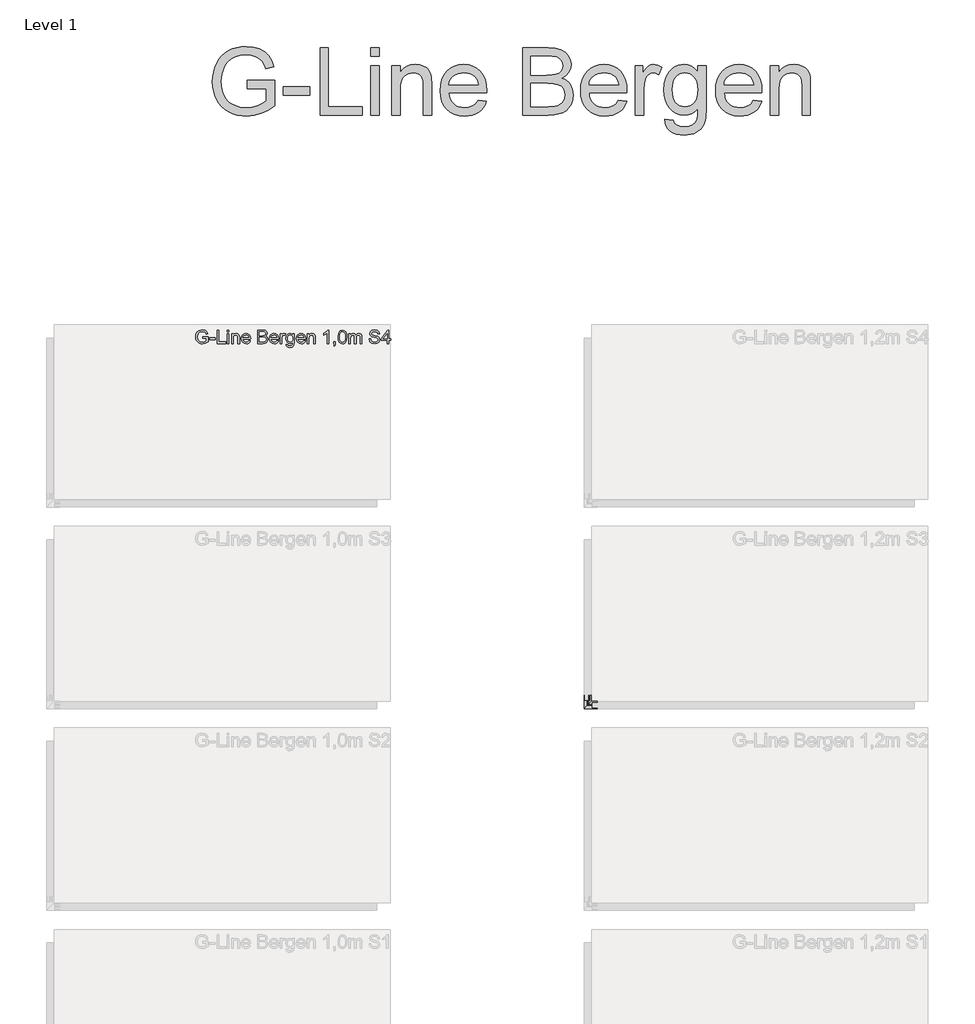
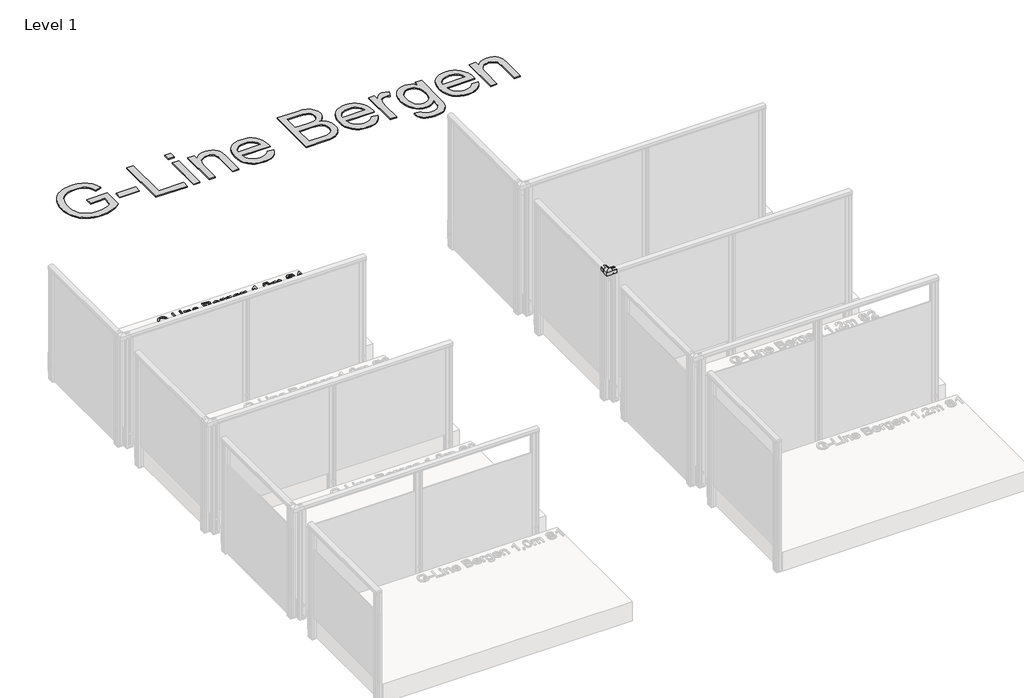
# One storey, part 58 of 66: 3 proxies.
"""IFC4 building model written with IfcOpenShell, lengths in millimetres."""

from ifc_helpers import new_model, si_unit, origin, origin_with_axes, place, context, project, spatial, polyline, outline, extrude, transform, mapped, element, save
from components import generic_models_029e0633

model = new_model("IFC4")

# Units and contexts
model_context = context("Model", 3, world=origin())
ifc_project = project(units=[si_unit("LENGTHUNIT", "METRE", prefix="MILLI")], contexts=[model_context])

# Site, building, storey
site = spatial("IfcSite", under=ifc_project)
building = spatial("IfcBuilding", under=site)
storey = spatial("IfcBuildingStorey", under=building, Name="Level 1", Elevation=0.0)

# Proxies
placement = place(None, origin())
generic_models_shape = generic_models_029e0633(model_context)
element("IfcBuildingElementProxy", 1, Name="Innore top rail 51x43 corner element : Innore top rail 51x43 element", ObjectType="Innore top rail 51x43 corner element : Innore top rail 51x43 element", at=placement, inside=storey, context=model_context, shape_type="MappedRepresentation", body=[
    mapped(generic_models_shape, transform((8466.5256066, 1488.9093698, 1200.0), x_axis=(0.0, -1.0, 0.0), y_axis=(1.0, 0.0, 0.0), z_axis=(0.0, 0.0, 1.0))),
])
element("IfcBuildingElementProxy", 2, Name="100mm Arial", ObjectType="100mm Arial", at=placement, inside=storey, context=model_context, shape_type="SweptSolid", body=[
    extrude(outline(polyline([(5601.1253773, 4218.1223441), (5601.1253773, 4230.6793828), (5641.9357533, 4230.6793828), (5641.9357533, 4193.1308939), (5621.7880827, 4181.2850936), (5600.4877152, 4177.3119681), (5586.4009005, 4178.890795), (5573.6691178, 4183.6272757), (5563.0925104, 4191.3558632), (5555.4712217, 4201.9110108), (5550.8634997, 4214.5722828), (5549.3275924, 4228.6192437), (5550.8573684, 4242.7673721), (5555.4466963, 4255.9283504), (5562.9055037, 4266.967876), (5573.0437184, 4274.7516459), (5585.3922907, 4279.3685649), (5599.4821711, 4280.9075379), (5619.1270696, 4277.3390826), (5632.898119, 4267.4062687), (5640.4887508, 4250.7902652), (5628.9127307, 4247.5283782), (5623.1860343, 4259.1411865), (5613.4003732, 4265.8366388), (5599.2859674, 4268.3504991), (5583.2095242, 4265.6404351), (5572.2711662, 4258.5280499), (5565.8087058, 4248.8527534), (5561.8846312, 4229.1342785), (5566.6057835, 4207.2452997), (5580.3400446, 4194.1487007), (5599.4821711, 4189.8690068), (5616.6622603, 4193.0941057), (5629.3787146, 4199.973499), (5629.3787146, 4218.1223441), (5601.1253773, 4218.1223441)])), origin_with_axes(), (0.0, 0.0, 1.0), 10.0),
    extrude(outline(polyline([(5654.4927921, 4208.704565), (5654.4927921, 4221.2616038), (5693.7335383, 4221.2616038), (5693.7335383, 4208.704565), (5654.4927921, 4208.704565)])), origin_with_axes(), (0.0, 0.0, 1.0), 10.0),
    extrude(outline(polyline([(5709.4298367, 4178.8815979), (5709.4298367, 4279.3379081), (5721.9868755, 4279.3379081), (5721.9868755, 4191.4386367), (5772.2150306, 4191.4386367), (5772.2150306, 4178.8815979), (5709.4298367, 4178.8815979)])), origin_with_axes(), (0.0, 0.0, 1.0), 10.0),
    extrude(outline(polyline([(5784.7720693, 4266.7808693), (5784.7720693, 4279.3379081), (5797.3291081, 4279.3379081), (5797.3291081, 4266.7808693), (5784.7720693, 4266.7808693)])), origin_with_axes(), (0.0, 0.0, 1.0), 10.0),
    extrude(outline(polyline([(5784.7720693, 4178.8815979), (5784.7720693, 4252.6542007), (5797.3291081, 4252.6542007), (5797.3291081, 4178.8815979), (5784.7720693, 4178.8815979)])), origin_with_axes(), (0.0, 0.0, 1.0), 10.0),
    extrude(outline(polyline([(5816.1646663, 4178.8815979), (5816.1646663, 4252.6542007), (5828.721705, 4252.6542007), (5828.721705, 4242.3535048), (5838.3234251, 4251.2562491), (5851.4322869, 4254.2238305), (5863.2903498, 4251.8325976), (5871.3837537, 4245.5540782), (5875.1484128, 4236.3202401), (5875.8106004, 4224.1801343), (5875.8106004, 4178.8815979), (5863.2535616, 4178.8815979), (5863.2535616, 4222.4878771), (5861.8065591, 4233.5979133), (5856.6929994, 4239.4717625), (5848.072298, 4241.6667918), (5834.4484014, 4236.737173), (5830.1533791, 4229.594131), (5828.721705, 4218.0242422), (5828.721705, 4178.8815979), (5816.1646663, 4178.8815979)])), origin_with_axes(), (0.0, 0.0, 1.0), 10.0),
    extrude(outline(polyline([(5944.7271608, 4200.8564158), (5957.0389449, 4199.2867859), (5952.6029012, 4190.0100283), (5945.5242385, 4183.0754527), (5935.9623723, 4178.7528392), (5924.0767182, 4177.3119681), (5909.3430443, 4179.7982372), (5898.0061474, 4187.2570447), (5890.7772662, 4199.2040125), (5888.3676392, 4215.1547626), (5890.8017917, 4231.6420074), (5898.1042493, 4243.9721856), (5909.287862, 4251.6609193), (5923.3654796, 4254.2238305), (5937.0047046, 4251.6670507), (5947.9032087, 4243.9967111), (5955.0493165, 4231.6910583), (5957.4313524, 4215.228339), (5957.357776, 4211.8438247), (5900.9246779, 4211.8438247), (5903.0982474, 4202.4444397), (5908.1474278, 4195.5343896), (5915.434557, 4191.2853525), (5924.3219728, 4189.8690068), (5936.6337569, 4192.4932317), (5944.7271608, 4200.8564158)]), holes=[polyline([(5900.9246779, 4224.4008635), (5944.8743136, 4224.4008635), (5939.846593, 4235.7806798), (5932.5257413, 4240.1952638), (5923.3164287, 4241.6667918), (5907.8531222, 4236.970165), (5902.9878828, 4231.4795262), (5900.9246779, 4224.4008635)])]), origin_with_axes(), (0.0, 0.0, 1.0), 10.0),
    extrude(outline(polyline([(6010.7987672, 4178.8815979), (6010.7987672, 4279.3379081), (6049.1320711, 4279.3379081), (6067.9063156, 4276.3825894), (6078.9918263, 4267.2959041), (6083.0017401, 4254.4445597), (6079.6294885, 4242.7091241), (6069.4391572, 4233.8186425), (6081.812255, 4224.4499144), (6086.1409998, 4208.8271923), (6083.1856811, 4195.3259231), (6075.8648294, 4185.7119403), (6064.9387341, 4180.6106433), (6048.8377655, 4178.8815979), (6010.7987672, 4178.8815979)]), holes=[polyline([(6023.3558059, 4238.5275321), (6046.287117, 4238.5275321), (6059.6780216, 4239.6066526), (6067.7346373, 4244.2542285), (6070.4447013, 4252.4334715), (6067.9185783, 4260.6249772), (6060.6835657, 4265.4687569), (6044.5458089, 4266.7808693), (6023.3558059, 4266.7808693), (6023.3558059, 4238.5275321)]), polyline([(6023.3558059, 4191.4386367), (6049.1075456, 4191.4386367), (6058.4272228, 4191.929146), (6066.3121602, 4194.6637355), (6071.5360846, 4200.2432791), (6073.583961, 4208.704565), (6071.1804653, 4218.4657006), (6063.3936297, 4224.2904989), (6047.8812723, 4225.9704933), (6023.3558059, 4225.9704933), (6023.3558059, 4191.4386367)])]), origin_with_axes(), (0.0, 0.0, 1.0), 10.0),
    extrude(outline(polyline([(6153.4879304, 4200.8564158), (6165.7997145, 4199.2867859), (6161.3636707, 4190.0100283), (6154.285008, 4183.0754527), (6144.7231418, 4178.7528392), (6132.8374877, 4177.3119681), (6118.1038138, 4179.7982372), (6106.766917, 4187.2570447), (6099.5380358, 4199.2040125), (6097.1284087, 4215.1547626), (6099.5625612, 4231.6420074), (6106.8650188, 4243.9721856), (6118.0486315, 4251.6609193), (6132.1262492, 4254.2238305), (6145.7654741, 4251.6670507), (6156.6639783, 4243.9967111), (6163.810086, 4231.6910583), (6166.1921219, 4215.228339), (6166.1185455, 4211.8438247), (6109.6854475, 4211.8438247), (6111.8590169, 4202.4444397), (6116.9081973, 4195.5343896), (6124.1953265, 4191.2853525), (6133.0827424, 4189.8690068), (6145.3945265, 4192.4932317), (6153.4879304, 4200.8564158)]), holes=[polyline([(6109.6854475, 4224.4008635), (6153.6350832, 4224.4008635), (6148.6073626, 4235.7806798), (6141.2865109, 4240.1952638), (6132.0771982, 4241.6667918), (6116.6138917, 4236.970165), (6111.7486523, 4231.4795262), (6109.6854475, 4224.4008635)])]), origin_with_axes(), (0.0, 0.0, 1.0), 10.0),
    extrude(outline(polyline([(6178.7491607, 4178.8815979), (6178.7491607, 4252.6542007), (6189.7365696, 4252.6542007), (6189.7365696, 4241.7403682), (6197.5356679, 4251.7958094), (6205.3838171, 4254.2238305), (6217.9899068, 4250.3488068), (6213.7960521, 4239.0916178), (6204.9668842, 4241.6667918), (6197.8667617, 4239.1897197), (6193.3418132, 4232.3225891), (6191.3061995, 4217.6563602), (6191.3061995, 4178.8815979), (6178.7491607, 4178.8815979)])), origin_with_axes(), (0.0, 0.0, 1.0), 10.0),
    extrude(outline(polyline([(6222.6987964, 4172.6030785), (6235.2558352, 4171.0334487), (6239.3270626, 4164.4115728), (6251.5162193, 4161.6156696), (6264.3675637, 4164.7794548), (6270.4989303, 4173.6576736), (6271.3573216, 4188.299377), (6262.515891, 4181.2360427), (6251.7369485, 4178.8815979), (6238.790568, 4181.6223188), (6229.1367313, 4189.8444814), (6223.1310577, 4201.8987481), (6221.1291665, 4216.1357813), (6224.7221474, 4235.5967388), (6235.1209451, 4249.3677882), (6251.1238119, 4254.2238305), (6262.3258186, 4251.4769783), (6271.3573216, 4243.2364216), (6271.3573216, 4252.6542007), (6283.9143604, 4252.6542007), (6283.9143604, 4188.9615646), (6280.4807951, 4164.5709883), (6269.6037508, 4153.2279601), (6251.2709647, 4149.0586308), (6239.5876456, 4150.5270931), (6230.3875301, 4154.93248), (6224.4860897, 4162.2870543), (6222.6987964, 4172.6030785)]), holes=[polyline([(6233.6862053, 4216.9941726), (6235.0259089, 4205.4764005), (6239.0450197, 4197.5577405), (6245.0874815, 4192.9684127), (6252.497238, 4191.4386367), (6259.8518122, 4192.9592156), (6265.9249308, 4197.5209523), (6269.9992239, 4205.3384447), (6271.3573216, 4216.6262906), (6269.95937, 4227.512532), (6265.7655153, 4235.3514842), (6259.6034919, 4240.0879649), (6252.3010343, 4241.6667918), (6245.130401, 4240.1124903), (6239.1185961, 4235.449586), (6235.044303, 4227.7271298), (6233.6862053, 4216.9941726)])]), origin_with_axes(), (0.0, 0.0, 1.0), 10.0),
    extrude(outline(polyline([(6354.4005507, 4200.8564158), (6366.7123348, 4199.2867859), (6362.276291, 4190.0100283), (6355.1976283, 4183.0754527), (6345.6357621, 4178.7528392), (6333.750108, 4177.3119681), (6319.0164341, 4179.7982372), (6307.6795373, 4187.2570447), (6300.4506561, 4199.2040125), (6298.041029, 4215.1547626), (6300.4751815, 4231.6420074), (6307.7776391, 4243.9721856), (6318.9612518, 4251.6609193), (6333.0388695, 4254.2238305), (6346.6780944, 4251.6670507), (6357.5765986, 4243.9967111), (6364.7227063, 4231.6910583), (6367.1047422, 4215.228339), (6367.0311658, 4211.8438247), (6310.5980678, 4211.8438247), (6312.7716372, 4202.4444397), (6317.8208176, 4195.5343896), (6325.1079468, 4191.2853525), (6333.9953627, 4189.8690068), (6346.3071468, 4192.4932317), (6354.4005507, 4200.8564158)]), holes=[polyline([(6310.5980678, 4224.4008635), (6354.5477035, 4224.4008635), (6349.5199829, 4235.7806798), (6342.1991312, 4240.1952638), (6332.9898185, 4241.6667918), (6317.526512, 4236.970165), (6312.6612726, 4231.4795262), (6310.5980678, 4224.4008635)])]), origin_with_axes(), (0.0, 0.0, 1.0), 10.0),
    extrude(outline(polyline([(6379.661781, 4178.8815979), (6379.661781, 4252.6542007), (6392.2188198, 4252.6542007), (6392.2188198, 4242.3535048), (6401.8205398, 4251.2562491), (6414.9294016, 4254.2238305), (6426.7874646, 4251.8325976), (6434.8808685, 4245.5540782), (6438.6455276, 4236.3202401), (6439.3077151, 4224.1801343), (6439.3077151, 4178.8815979), (6426.7506764, 4178.8815979), (6426.7506764, 4222.4878771), (6425.3036739, 4233.5979133), (6420.1901141, 4239.4717625), (6411.5694127, 4241.6667918), (6397.9455162, 4236.737173), (6393.6504939, 4229.594131), (6392.2188198, 4218.0242422), (6392.2188198, 4178.8815979), (6379.661781, 4178.8815979)])), origin_with_axes(), (0.0, 0.0, 1.0), 10.0),
    extrude(outline(polyline([(6539.7640253, 4178.8815979), (6527.2069865, 4178.8815979), (6527.2069865, 4257.1668865), (6515.3121354, 4248.6933379), (6502.092909, 4242.3535048), (6502.092909, 4254.2238305), (6520.4992715, 4265.9715289), (6531.6706214, 4279.3379081), (6539.7640253, 4279.3379081), (6539.7640253, 4178.8815979)])), origin_with_axes(), (0.0, 0.0, 1.0), 10.0),
    extrude(outline(polyline([(6575.8655118, 4178.8815979), (6575.8655118, 4191.4386367), (6588.4225505, 4191.4386367), (6588.4225505, 4178.8815979), (6586.1662076, 4166.0425163), (6579.0047714, 4158.4764099), (6575.8655118, 4163.1852995), (6580.4762994, 4168.6054275), (6582.1195057, 4178.8815979), (6575.8655118, 4178.8815979)])), origin_with_axes(), (0.0, 0.0, 1.0), 10.0),
    extrude(outline(polyline([(6608.8277385, 4228.3004126), (6612.5188212, 4257.2036747), (6623.4817047, 4273.8687291), (6641.7899653, 4279.3379081), (6656.4561942, 4276.1005465), (6666.5852118, 4266.7686066), (6672.4713237, 4251.906174), (6674.7521921, 4228.3004126), (6671.0978976, 4199.5197778), (6660.1718023, 4182.8179353), (6651.9404427, 4178.6884599), (6641.7899653, 4177.3119681), (6628.7424172, 4179.703201), (6618.8341288, 4186.8768999), (6611.3293361, 4203.8669168), (6608.8277385, 4228.3004126)]), holes=[polyline([(6621.3847773, 4228.3249381), (6622.8563053, 4208.5727406), (6627.2708892, 4197.1408076), (6633.8437142, 4191.686957), (6641.7899653, 4189.8690068), (6649.7362164, 4191.6930884), (6656.3090414, 4197.1653331), (6660.7236253, 4208.6033974), (6662.1951533, 4228.3249381), (6660.7726762, 4247.6326115), (6656.5052451, 4259.1534493), (6649.9446829, 4264.8740143), (6641.6428125, 4266.7808693), (6633.7824005, 4265.1008749), (6627.4670929, 4260.0608915), (6622.9053562, 4247.8226838), (6621.3847773, 4228.3249381)])]), origin_with_axes(), (0.0, 0.0, 1.0), 10.0),
    extrude(outline(polyline([(6688.8788607, 4178.8815979), (6688.8788607, 4252.6542007), (6701.4358994, 4252.6542007), (6701.4358994, 4240.5140948), (6710.0688636, 4250.4591714), (6722.3561222, 4254.2238305), (6734.9376865, 4250.385595), (6741.853868, 4239.6311781), (6751.6517918, 4250.5756674), (6764.0248896, 4254.2238305), (6773.4641284, 4252.7063173), (6780.4446893, 4248.1537776), (6784.7581057, 4240.4435841), (6786.1959111, 4229.4531095), (6786.1959111, 4178.8815979), (6773.6388724, 4178.8815979), (6773.6388724, 4224.0575069), (6772.4739127, 4234.5421438), (6768.2555325, 4239.7047545), (6761.0818336, 4241.6667918), (6748.7332613, 4236.6390712), (6745.0452443, 4230.096903), (6743.8159053, 4220.5258398), (6743.8159053, 4178.8815979), (6731.2588665, 4178.8815979), (6731.2588665, 4225.4554585), (6728.3525988, 4237.6200898), (6718.8244551, 4241.6667918), (6709.5293033, 4238.9689905), (6703.3488858, 4231.0717903), (6701.4358994, 4216.0867304), (6701.4358994, 4178.8815979), (6688.8788607, 4178.8815979)])), origin_with_axes(), (0.0, 0.0, 1.0), 10.0),
    extrude(outline(polyline([(6841.1329557, 4213.4134545), (6853.6899945, 4213.4134545), (6857.7366965, 4200.844153), (6867.6204594, 4192.8979019), (6882.6790957, 4189.8690068), (6895.8002202, 4192.1621379), (6904.2737689, 4198.4651828), (6907.0574093, 4206.8896805), (6904.9727446, 4214.725567), (6896.4378824, 4220.4277379), (6878.1541472, 4225.2224666), (6858.4724605, 4231.4151468), (6847.7916199, 4240.7593495), (6844.2722154, 4253.2428119), (6848.6254857, 4267.4553196), (6861.34194, 4277.4862354), (6879.956769, 4280.9075379), (6899.8223967, 4277.3268198), (6913.0661485, 4266.8053948), (6918.0448182, 4251.0845708), (6905.4877794, 4251.0845708), (6903.1823856, 4258.5771008), (6898.3753942, 4263.9849661), (6880.4472783, 4268.3504991), (6862.4701115, 4264.0340171), (6856.8292542, 4253.6106939), (6860.8269052, 4244.9041533), (6881.3301951, 4237.8898699), (6903.5502676, 4231.5868251), (6915.7026362, 4221.4087566), (6919.6144481, 4207.2085115), (6915.114025, 4192.1866634), (6902.1645787, 4181.22378), (6883.1696051, 4177.3119681), (6860.7410661, 4181.5303483), (6846.5530838, 4194.2345399), (6841.1329557, 4213.4134545)])), origin_with_axes(), (0.0, 0.0, 1.0), 10.0),
    extrude(outline(polyline([(6974.5514927, 4178.8815979), (6974.5514927, 4202.4260456), (6929.0322271, 4202.4260456), (6929.0322271, 4214.9830844), (6977.6907524, 4277.7682782), (6987.1085314, 4277.7682782), (6987.1085314, 4214.9830844), (6999.6655702, 4214.9830844), (6999.6655702, 4202.4260456), (6987.1085314, 4202.4260456), (6987.1085314, 4178.8815979), (6974.5514927, 4178.8815979)]), holes=[polyline([(6974.5514927, 4214.9830844), (6974.5514927, 4253.7823721), (6944.4832709, 4214.9830844), (6974.5514927, 4214.9830844)])]), origin_with_axes(), (0.0, 0.0, 1.0), 10.0),
])
element("IfcBuildingElementProxy", 3, Name="500mm Arial 2", ObjectType="500mm Arial 2", at=placement, inside=storey, context=model_context, shape_type="SweptSolid", body=[
    extrude(outline(polyline([(5933.4305946, 6075.0853287), (5933.4305946, 6137.8705225), (6137.4824745, 6137.8705225), (6137.4824745, 5950.1280777), (6087.8950473, 5915.6391406), (6036.7441215, 5890.8990764), (5984.1523246, 5875.9998556), (5930.2422839, 5871.0334487), (5894.1783521, 5873.0069823), (5859.8082103, 5878.9275832), (5827.1318585, 5888.7952513), (5796.1492967, 5902.6099866), (5767.8607041, 5920.1648556), (5743.2662599, 5941.2529245), (5722.365964, 5965.8741935), (5705.1598166, 5994.0286624), (5691.7206274, 6024.8157869), (5682.1212066, 6057.3350224), (5676.3615541, 6091.586369), (5674.44167, 6127.5698267), (5676.3538899, 6163.5571164), (5682.0905498, 6198.3104686), (5691.6516495, 6231.8298834), (5705.0371892, 6264.1153605), (5722.0095784, 6293.7490217), (5742.3312265, 6319.3129882), (5766.0021336, 6340.8072602), (5793.0222997, 6358.2318376), (5822.8054129, 6371.6978515), (5854.7651613, 6381.3164328), (5888.9015447, 6387.0875816), (5925.2145633, 6389.0112979), (5976.9326405, 6384.5507287), (6023.439056, 6371.1690211), (6062.6031601, 6349.8318654), (6092.2943028, 6321.5049518), (6114.2599236, 6284.8240512), (6130.247462, 6238.4249345), (6072.3673614, 6222.1154994), (6059.4455063, 6255.2095506), (6043.7338794, 6280.179541), (6022.9485467, 6299.0028364), (5994.8055741, 6313.6568026), (5961.2516704, 6323.0837787), (5924.2335447, 6326.2261041), (5880.9001113, 6322.838524), (5843.8513287, 6312.6757839), (5813.2251526, 6297.0101423), (5789.1595388, 6277.1138577), (5770.6887969, 6254.0139341), (5756.8472369, 6228.7373753), (5742.1319571, 6181.3419116), (5737.2268638, 6130.1450006), (5738.7022239, 6098.7945568), (5743.1283041, 6070.1035933), (5750.5051046, 6044.0721101), (5760.8326252, 6020.7001071), (5773.9767423, 6000.0757227), (5789.8033323, 5982.2870954), (5808.3123952, 5967.3342251), (5829.5039309, 5955.2171119), (5875.9643612, 5939.1682599), (5925.2145633, 5933.8186425), (5968.7012808, 5937.8500161), (6011.1150092, 5949.9441367), (6047.949194, 5966.6061254), (6074.6972807, 5984.3411032), (6074.6972807, 6075.0853287), (5933.4305946, 6075.0853287)])), origin_with_axes(), (0.0, 0.0, 1.0), 10.0),
    extrude(outline(polyline([(6200.2676684, 6027.9964333), (6200.2676684, 6090.7816271), (6396.4713992, 6090.7816271), (6396.4713992, 6027.9964333), (6200.2676684, 6027.9964333)])), origin_with_axes(), (0.0, 0.0, 1.0), 10.0),
    extrude(outline(polyline([(6474.9528915, 5878.8815979), (6474.9528915, 6381.1631487), (6537.7380853, 6381.1631487), (6537.7380853, 5941.6667918), (6788.8788607, 5941.6667918), (6788.8788607, 5878.8815979), (6474.9528915, 5878.8815979)])), origin_with_axes(), (0.0, 0.0, 1.0), 10.0),
    extrude(outline(polyline([(6851.6640545, 5878.8815979), (6851.6640545, 6247.7446117), (6914.4492484, 6247.7446117), (6914.4492484, 5878.8815979), (6851.6640545, 5878.8815979)])), origin_with_axes(), (0.0, 0.0, 1.0), 10.0),
    extrude(outline(polyline([(6851.6640545, 6318.3779548), (6851.6640545, 6381.1631487), (6914.4492484, 6381.1631487), (6914.4492484, 6318.3779548), (6851.6640545, 6318.3779548)])), origin_with_axes(), (0.0, 0.0, 1.0), 10.0),
    extrude(outline(polyline([(7008.6270391, 5878.8815979), (7008.6270391, 6247.7446117), (7071.412233, 6247.7446117), (7071.412233, 6196.2411324), (7093.2245696, 6222.2074699), (7119.4208333, 6240.7548538), (7150.0010242, 6251.8832842), (7184.9651421, 6255.592761), (7215.913215, 6252.6037198), (7244.255457, 6243.6365961), (7267.8918752, 6229.8103645), (7284.7224765, 6212.2439992), (7296.1421468, 6190.9834856), (7303.5457719, 6166.0748088), (7306.8567099, 6105.3742796), (7306.8567099, 5878.8815979), (7244.071516, 5878.8815979), (7244.071516, 6096.9129937), (7242.2627629, 6129.3785798), (7236.8365035, 6152.463175), (7226.8270475, 6169.0025364), (7211.2687048, 6181.8324209), (7191.326435, 6190.0637806), (7168.1651977, 6192.8075671), (7149.1004797, 6191.2670613), (7131.3923266, 6186.6455437), (7115.0407383, 6178.9430144), (7100.0457149, 6168.1594735), (7087.5185666, 6153.0686474), (7078.5706035, 6132.4442631), (7073.2018256, 6106.2863204), (7071.412233, 6074.5948194), (7071.412233, 5878.8815979), (7008.6270391, 5878.8815979)])), origin_with_axes(), (0.0, 0.0, 1.0), 10.0),
    extrude(outline(polyline([(7651.439512, 5988.7556871), (7712.9984326, 5980.9075379), (7703.5599601, 5956.25178), (7690.8182139, 5934.5237497), (7674.773194, 5915.7234469), (7655.4249003, 5899.8508716), (7632.9726023, 5887.2432491), (7607.6155694, 5878.2378044), (7579.3538015, 5872.8345376), (7548.1872987, 5871.0334487), (7509.2301283, 5874.1412851), (7474.5189292, 5883.4647944), (7444.0537015, 5899.0039766), (7417.8344451, 5920.7588317), (7396.7502082, 5948.1238872), (7381.6900391, 5980.4936707), (7372.6539376, 6017.8681821), (7369.6419037, 6060.2474215), (7372.6845944, 6104.0637), (7381.8126664, 6142.6836453), (7397.0261197, 6176.1072574), (7418.3249544, 6204.3345363), (7444.4752329, 6226.7600096), (7474.2430177, 6242.7782048), (7507.6283088, 6252.3891219), (7544.6311061, 6255.592761), (7580.4421191, 6252.3967861), (7612.827231, 6242.8088616), (7641.7864418, 6226.8289875), (7667.3197515, 6204.4571637), (7688.1625658, 6176.2911984), (7703.0502903, 6142.9289), (7711.982925, 6104.3702683), (7714.9604699, 6060.6153035), (7714.5925879, 6043.6927318), (7432.4270976, 6043.6927318), (7436.0637644, 6018.638435), (7443.2949448, 5996.6958069), (7454.120639, 5977.8648472), (7468.5408468, 5962.1455562), (7485.7584906, 5949.7525314), (7504.9764927, 5940.9003709), (7526.1948532, 5935.5890746), (7549.413572, 5933.8186425), (7582.8295199, 5937.0989237), (7610.9724926, 5946.939767), (7633.8424899, 5963.9543093), (7651.439512, 5988.7556871)]), holes=[polyline([(7432.4270976, 6106.4779256), (7652.175276, 6106.4779256), (7643.6833333, 6139.6486188), (7627.036673, 6163.3770075), (7609.9148318, 6176.2528774), (7590.4324145, 6185.4499272), (7568.589421, 6190.9681572), (7544.3858514, 6192.8075671), (7502.0640936, 6186.9367836), (7483.6508333, 6179.5983042), (7467.0693188, 6169.3244331), (7453.1549487, 6156.5903511), (7442.7431219, 6141.8712392), (7435.8338381, 6125.1670974), (7432.4270976, 6106.4779256)])]), origin_with_axes(), (0.0, 0.0, 1.0), 10.0),
    extrude(outline(polyline([(7981.7975437, 5878.8815979), (7981.7975437, 6381.1631487), (8173.4640632, 6381.1631487), (8226.1784874, 6377.4690003), (8267.3352856, 6366.3865552), (8298.8811667, 6347.6399019), (8322.7628396, 6320.9531288), (8337.8000161, 6289.5605319), (8342.8124083, 6256.696407), (8338.5970938, 6226.4534413), (8325.9511502, 6198.0192287), (8304.7826071, 6173.1412088), (8274.9994939, 6153.566821), (8293.9492487, 6145.4887455), (8310.5767485, 6134.9887802), (8324.8819931, 6122.0669251), (8336.8649827, 6106.7231803), (8353.0977758, 6070.6400879), (8358.5087068, 6028.60957), (8354.8145584, 5993.5841383), (8343.7321133, 5961.1032238), (8327.1927519, 5933.4814174), (8307.1278548, 5913.0333098), (8282.5564032, 5898.2260595), (8252.4973785, 5887.5268248), (8215.969762, 5881.0429046), (8171.9925352, 5878.8815979), (7981.7975437, 5878.8815979)]), holes=[polyline([(8044.5827375, 6177.1112687), (8159.2392927, 6177.1112687), (8199.3384302, 6178.4601693), (8226.1938158, 6182.5068713), (8249.6309646, 6191.8112201), (8266.4768943, 6205.7447506), (8276.6396344, 6224.0928651), (8280.0272145, 6246.6409658), (8276.8695607, 6268.5299445), (8267.3965993, 6287.5984946), (8252.037526, 6302.4823869), (8231.2215364, 6311.8173926), (8199.2771165, 6316.7378143), (8150.5327522, 6318.3779548), (8044.5827375, 6318.3779548), (8044.5827375, 6177.1112687)]), polyline([(8044.5827375, 5941.6667918), (8173.3414359, 5941.6667918), (8219.9398219, 5944.1193384), (8241.5682175, 5949.5609262), (8259.3645091, 5957.7922859), (8273.8345342, 5969.5798381), (8285.4841307, 5985.6900039), (8293.1636674, 6005.4023474), (8295.7235129, 6027.9964333), (8292.7191433, 6054.2386823), (8283.7060344, 6076.8021113), (8267.9637507, 6094.4451187), (8244.7718566, 6105.9261026), (8211.9230601, 6112.2260818), (8167.2100693, 6114.3260748), (8044.5827375, 6114.3260748), (8044.5827375, 5941.6667918)])]), origin_with_axes(), (0.0, 0.0, 1.0), 10.0),
    extrude(outline(polyline([(8695.2433597, 5988.7556871), (8756.8022802, 5980.9075379), (8747.3638078, 5956.25178), (8734.6220616, 5934.5237497), (8718.5770416, 5915.7234469), (8699.228748, 5899.8508716), (8676.7764499, 5887.2432491), (8651.419417, 5878.2378044), (8623.1576491, 5872.8345376), (8591.9911464, 5871.0334487), (8553.0339759, 5874.1412851), (8518.3227768, 5883.4647944), (8487.8575491, 5899.0039766), (8461.6382927, 5920.7588317), (8440.5540559, 5948.1238872), (8425.4938867, 5980.4936707), (8416.4577852, 6017.8681821), (8413.4457514, 6060.2474215), (8416.488442, 6104.0637), (8425.6165141, 6142.6836453), (8440.8299674, 6176.1072574), (8462.1288021, 6204.3345363), (8488.2790806, 6226.7600096), (8518.0468653, 6242.7782048), (8551.4321564, 6252.3891219), (8588.4349537, 6255.592761), (8624.2459667, 6252.3967861), (8656.6310786, 6242.8088616), (8685.5902894, 6226.8289875), (8711.1235991, 6204.4571637), (8731.9664134, 6176.2911984), (8746.8541379, 6142.9289), (8755.7867726, 6104.3702683), (8758.7643175, 6060.6153035), (8758.3964355, 6043.6927318), (8476.2309452, 6043.6927318), (8479.867612, 6018.638435), (8487.0987925, 5996.6958069), (8497.9244866, 5977.8648472), (8512.3446944, 5962.1455562), (8529.5623382, 5949.7525314), (8548.7803404, 5940.9003709), (8569.9987008, 5935.5890746), (8593.2174197, 5933.8186425), (8626.6333676, 5937.0989237), (8654.7763402, 5946.939767), (8677.6463376, 5963.9543093), (8695.2433597, 5988.7556871)]), holes=[polyline([(8476.2309452, 6106.4779256), (8695.9791237, 6106.4779256), (8687.487181, 6139.6486188), (8670.8405207, 6163.3770075), (8653.7186795, 6176.2528774), (8634.2362621, 6185.4499272), (8612.3932687, 6190.9681572), (8588.1896991, 6192.8075671), (8545.8679412, 6186.9367836), (8527.4546809, 6179.5983042), (8510.8731664, 6169.3244331), (8496.9587964, 6156.5903511), (8486.5469695, 6141.8712392), (8479.6376858, 6125.1670974), (8476.2309452, 6106.4779256)])]), origin_with_axes(), (0.0, 0.0, 1.0), 10.0),
    extrude(outline(polyline([(8821.5495114, 5878.8815979), (8821.5495114, 6247.7446117), (8876.486556, 6247.7446117), (8876.486556, 6193.1754491), (8896.7813794, 6224.8133007), (8915.4820475, 6243.4526551), (8934.2440292, 6252.5577345), (8954.7227936, 6255.592761), (8985.9927632, 6250.7489814), (9017.7532421, 6236.2176426), (8996.7839684, 6179.9316973), (8974.7110487, 6189.5885997), (8952.638129, 6192.8075671), (8933.8914756, 6189.711227), (8917.1375164, 6180.4222066), (8903.6025247, 6165.6456132), (8894.5127737, 6146.0865537), (8886.8792223, 6111.0151369), (8884.3347052, 6072.7554094), (8884.3347052, 5878.8815979), (8821.5495114, 5878.8815979)])), origin_with_axes(), (0.0, 0.0, 1.0), 10.0),
    extrude(outline(polyline([(9041.2976898, 5847.489001), (9104.0828837, 5839.6408518), (9111.0113279, 5820.0204787), (9124.4390207, 5806.5314722), (9150.8345539, 5796.0468353), (9185.3848046, 5792.5519564), (9222.2343178, 5796.5066878), (9249.6415264, 5808.3708822), (9268.6487628, 5827.3781186), (9280.2983593, 5852.7619763), (9283.7012678, 5879.7706461), (9284.590316, 5925.9704933), (9263.6976843, 5905.3691016), (9240.3831629, 5890.6538218), (9214.6467516, 5881.8246539), (9186.4884506, 5878.8815979), (9152.0646593, 5882.307499), (9121.7565478, 5892.5852022), (9095.5641162, 5909.7147076), (9073.4873644, 5933.6960152), (9055.9708165, 5962.4674529), (9043.4589965, 5993.9673487), (9035.9519046, 6028.1957027), (9033.4495406, 6065.1525148), (9037.9407666, 6115.8435881), (9051.4144447, 6162.4573025), (9073.3953939, 6201.9586318), (9087.3979023, 6217.904017), (9103.4084333, 6231.3125493), (9121.1702359, 6241.9351419), (9140.4265591, 6249.5227081), (9161.1774029, 6254.0752477), (9183.4227673, 6255.592761), (9212.784349, 6252.1591957), (9239.432801, 6241.8584998), (9263.3681234, 6224.6906734), (9284.590316, 6200.6557164), (9284.590316, 6247.7446117), (9347.3755098, 6247.7446117), (9347.3755098, 5929.2814313), (9343.0835532, 5855.7510175), (9337.7186074, 5828.4012904), (9330.2076834, 5807.3285499), (9308.0274647, 5775.2155174), (9275.8224617, 5750.6134089), (9256.1369429, 5741.4930011), (9234.2977815, 5734.9784241), (9184.1585313, 5729.7667625), (9153.3982315, 5731.6023404), (9125.7419361, 5737.109074), (9101.189645, 5746.2869634), (9079.7413583, 5759.1360085), (9062.4164156, 5775.6715378), (9050.2341566, 5795.9088796), (9043.1945813, 5819.848034), (9041.2976898, 5847.489001)]), holes=[polyline([(9096.2347344, 6069.4444714), (9097.9093639, 6038.400596), (9102.9332524, 6011.8556108), (9111.3063999, 5989.8095158), (9123.0288064, 5972.262311), (9137.2804016, 5958.8767713), (9153.2411153, 5949.3156716), (9170.9109473, 5943.5790117), (9190.2898979, 5941.6667918), (9209.4772432, 5943.5675154), (9227.062769, 5949.2696863), (9243.0464752, 5958.7733045), (9257.428362, 5972.07837), (9269.3117168, 5989.4531301), (9277.7998275, 6011.165832), (9282.8926938, 6037.2164758), (9284.590316, 6067.6050614), (9282.8428765, 6096.7252206), (9277.600558, 6122.0362683), (9268.8633607, 6143.5382045), (9256.6312843, 6161.2310292), (9241.9389971, 6175.0457646), (9225.8211672, 6184.9134327), (9208.2777946, 6190.8340335), (9189.3088792, 6192.8075671), (9170.6580285, 6190.8646903), (9153.4557131, 6185.03606), (9137.7019331, 6175.3216761), (9123.3966884, 6161.7215385), (9111.5133335, 6144.2969611), (9103.0252229, 6123.1092575), (9097.9323565, 6098.1584276), (9096.2347344, 6069.4444714)])]), origin_with_axes(), (0.0, 0.0, 1.0), 10.0),
    extrude(outline(polyline([(9699.8064612, 5988.7556871), (9761.3653817, 5980.9075379), (9751.9269093, 5956.25178), (9739.1851631, 5934.5237497), (9723.1401431, 5915.7234469), (9703.7918495, 5899.8508716), (9681.3395514, 5887.2432491), (9655.9825185, 5878.2378044), (9627.7207506, 5872.8345376), (9596.5542479, 5871.0334487), (9557.5970774, 5874.1412851), (9522.8858783, 5883.4647944), (9492.4206506, 5899.0039766), (9466.2013942, 5920.7588317), (9445.1171574, 5948.1238872), (9430.0569882, 5980.4936707), (9421.0208867, 6017.8681821), (9418.0088529, 6060.2474215), (9421.0515435, 6104.0637), (9430.1796155, 6142.6836453), (9445.3930689, 6176.1072574), (9466.6919036, 6204.3345363), (9492.8421821, 6226.7600096), (9522.6099668, 6242.7782048), (9555.9952579, 6252.3891219), (9592.9980552, 6255.592761), (9628.8090682, 6252.3967861), (9661.1941801, 6242.8088616), (9690.1533909, 6226.8289875), (9715.6867006, 6204.4571637), (9736.5295149, 6176.2911984), (9751.4172394, 6142.9289), (9760.3498741, 6104.3702683), (9763.327419, 6060.6153035), (9762.959537, 6043.6927318), (9480.7940467, 6043.6927318), (9484.4307135, 6018.638435), (9491.661894, 5996.6958069), (9502.4875881, 5977.8648472), (9516.9077959, 5962.1455562), (9534.1254397, 5949.7525314), (9553.3434418, 5940.9003709), (9574.5618023, 5935.5890746), (9597.7805212, 5933.8186425), (9631.1964691, 5937.0989237), (9659.3394417, 5946.939767), (9682.2094391, 5963.9543093), (9699.8064612, 5988.7556871)]), holes=[polyline([(9480.7940467, 6106.4779256), (9700.5422252, 6106.4779256), (9692.0502824, 6139.6486188), (9675.4036222, 6163.3770075), (9658.281781, 6176.2528774), (9638.7993636, 6185.4499272), (9616.9563702, 6190.9681572), (9592.7528006, 6192.8075671), (9550.4310427, 6186.9367836), (9532.0177824, 6179.5983042), (9515.4362679, 6169.3244331), (9501.5218979, 6156.5903511), (9491.110071, 6141.8712392), (9484.2007873, 6125.1670974), (9480.7940467, 6106.4779256)])]), origin_with_axes(), (0.0, 0.0, 1.0), 10.0),
    extrude(outline(polyline([(9826.1126129, 5878.8815979), (9826.1126129, 6247.7446117), (9888.8978067, 6247.7446117), (9888.8978067, 6196.2411324), (9910.7101433, 6222.2074699), (9936.9064071, 6240.7548538), (9967.4865979, 6251.8832842), (10002.4507159, 6255.592761), (10033.3987887, 6252.6037198), (10061.7410308, 6243.6365961), (10085.377449, 6229.8103645), (10102.2080502, 6212.2439992), (10113.6277205, 6190.9834856), (10121.0313457, 6166.0748088), (10124.3422836, 6105.3742796), (10124.3422836, 5878.8815979), (10061.5570898, 5878.8815979), (10061.5570898, 6096.9129937), (10059.7483366, 6129.3785798), (10054.3220772, 6152.463175), (10044.3126212, 6169.0025364), (10028.7542785, 6181.8324209), (10008.8120087, 6190.0637806), (9985.6507714, 6192.8075671), (9966.5860535, 6191.2670613), (9948.8779003, 6186.6455437), (9932.5263121, 6178.9430144), (9917.5312887, 6168.1594735), (9905.0041403, 6153.0686474), (9896.0561772, 6132.4442631), (9890.6873993, 6106.2863204), (9888.8978067, 6074.5948194), (9888.8978067, 5878.8815979), (9826.1126129, 5878.8815979)])), origin_with_axes(), (0.0, 0.0, 1.0), 10.0),
])

save(model, "model.ifc")
